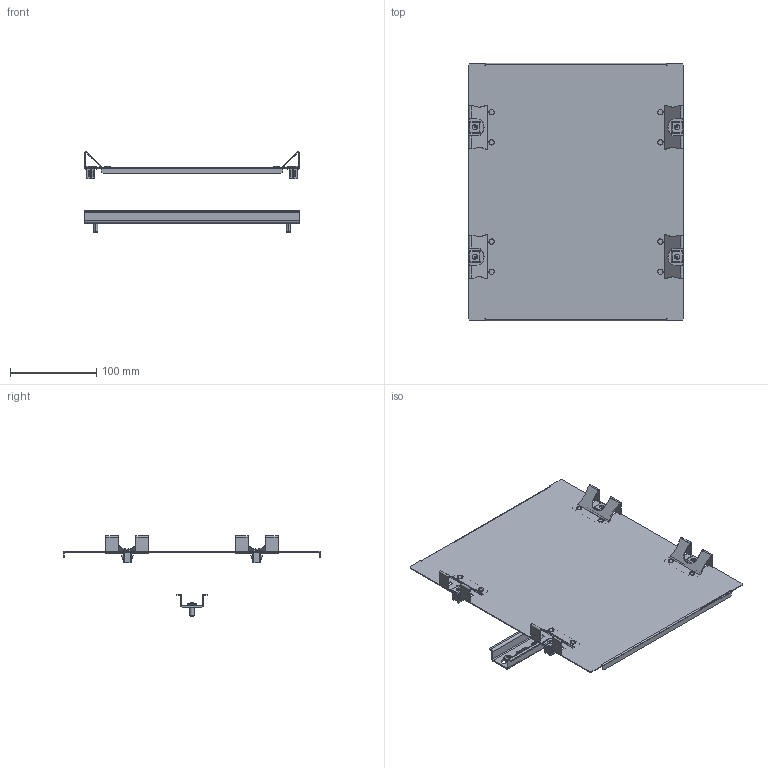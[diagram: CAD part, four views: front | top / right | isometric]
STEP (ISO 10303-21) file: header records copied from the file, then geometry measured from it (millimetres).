
FILE_DESCRIPTION (( 'STEP AP203' ), '1' );
FILE_NAME ('R5ISP330S.STEP', '2022-04-13T09:10:15', ( '' ), ( '' ), 'SwSTEP 2.0', 'SolidWorks 2020', '' );
FILE_SCHEMA (( 'CONFIG_CONTROL_DESIGN' ));
Length unit declared in the file: millimetre
Products named in the file (11): RB.0517.00.00.0; RB.2138.00.01.0_-01; RB.0392.00.02.0_-01; M5x12 DIN 7500 C Torx Zinc_stright; RB.0376.00.00.0_-00; R5ISP330S; RB.2138.00.00.0 捘_-01; 294-9118.00-00050
Assembly tree (17 placements, depth 3):
  R5ISP330S
    RB.2138.00.00.0 捘_-01
      RB.2138.00.01.0_-01
      RB.0392.00.02.0_-01
      RB.0392.00.02.0_-01
      RB.0392.00.02.0_-01
      RB.0392.00.02.0_-01
    RB.0517.00.00.0
    M5x12 DIN 7500 C Torx Zinc_stright  x2
    294-9118.00-00050  x4
    RB.0376.00.00.0_-00  x4
Bounding box: 250 x 298 x 93.03 mm (x, y, z)
Volume: 110271.7 mm3; surface area: 206587.7 mm2
Topology: 16 solids, 16 shells, 1070 faces, 2626 edges, 1626 vertices
Faces by surface type: plane 736, cylinder 214, cone 40, bspline 36, torus 24, sphere 20
Entity records: 20707 total; most frequent: CARTESIAN_POINT 3700, DIRECTION 3276, ORIENTED_EDGE 3184, EDGE_CURVE 1592, VECTOR 1166, LINE 1166, AXIS2_PLACEMENT_3D 1055, VERTEX_POINT 999
